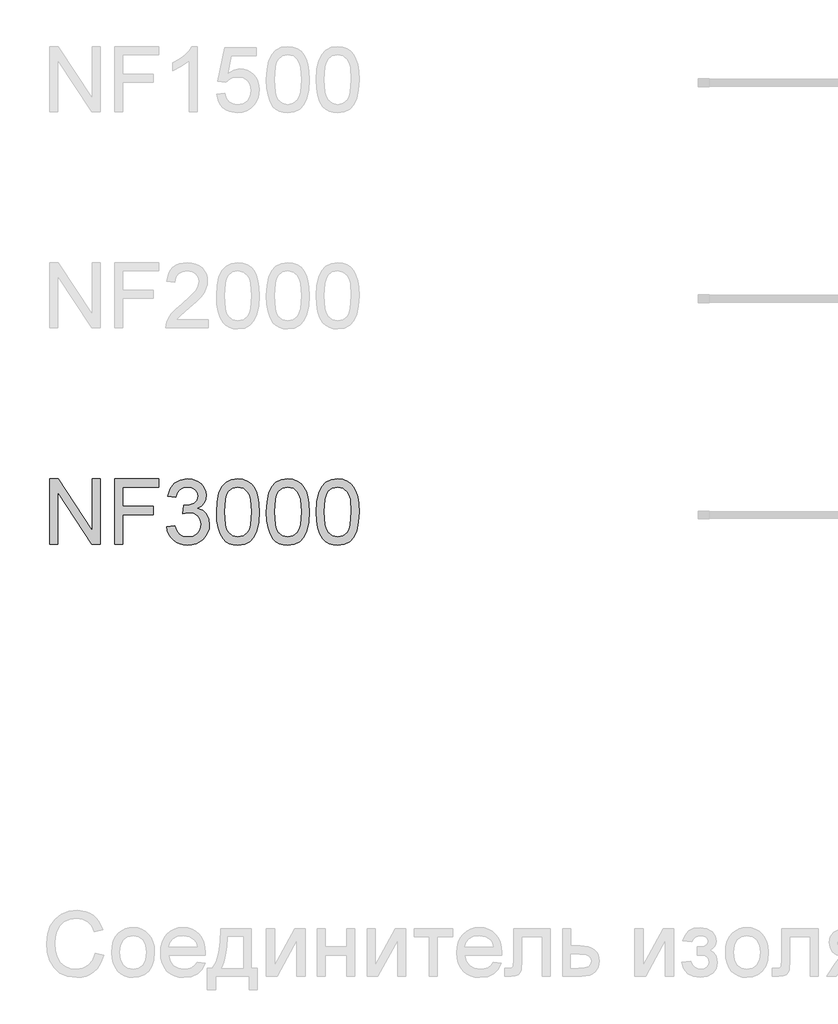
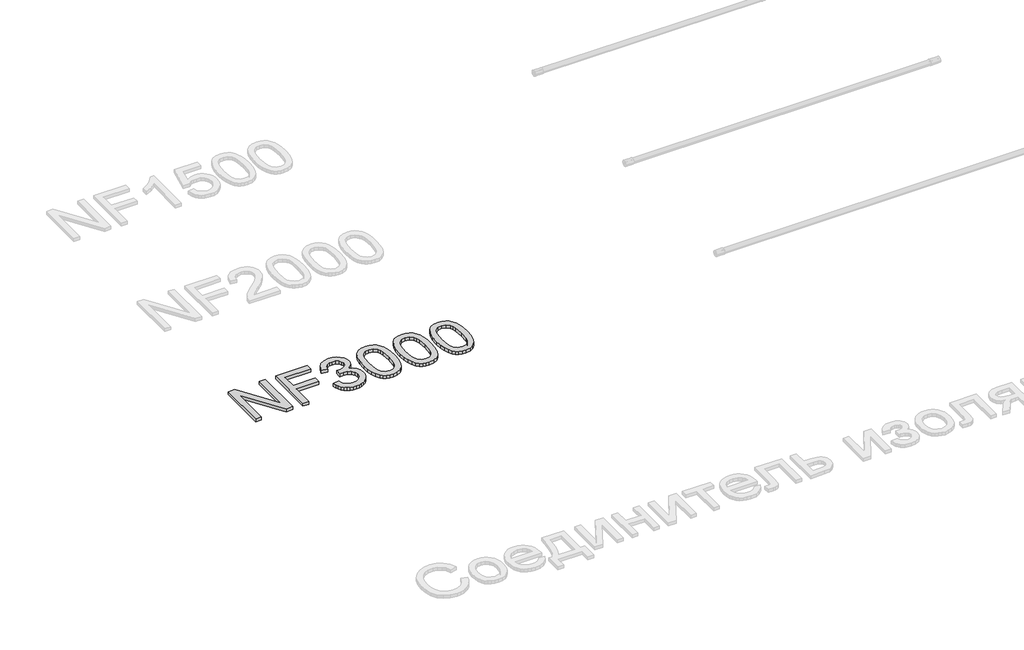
# One storey, part 21 of 124: 1 proxy.
"""IFC4 building model written with IfcOpenShell, lengths in millimetres."""

from ifc_helpers import new_model, si_unit, origin, origin_with_axes, place, context, project, spatial, polyline, outline, extrude, element, save

model = new_model("IFC4")

# Units and contexts
model_context = context("Model", 3, world=origin())
ifc_project = project(units=[si_unit("LENGTHUNIT", "METRE", prefix="MILLI")], contexts=[model_context])

# Site, building, storey
site = spatial("IfcSite", under=ifc_project)
building = spatial("IfcBuilding", under=site)
storey = spatial("IfcBuildingStorey", under=building, Name="Этаж 01", Elevation=0.0)

# Proxy
placement = place(None, origin())
element("IfcBuildingElementProxy", 1, Name="300", ObjectType="300", at=placement, inside=storey, context=model_context, shape_type="SweptSolid", body=[
    extrude(outline(polyline([(25399.8220677, -104548.8731539), (25399.8220677, -104247.5042234), (25440.1419344, -104247.5042234), (25597.5954283, -104486.2596383), (25597.5954283, -104247.5042234), (25635.2665446, -104247.5042234), (25635.2665446, -104548.8731539), (25594.9466779, -104548.8731539), (25437.493184, -104310.0441626), (25437.493184, -104548.8731539), (25399.8220677, -104548.8731539)])), origin_with_axes(), (0.0, 0.0, 1.0), 20.0),
    extrude(outline(polyline([(25701.1909981, -104548.8731539), (25701.1909981, -104247.5042234), (25903.6732483, -104247.5042234), (25903.6732483, -104285.1753397), (25738.8621144, -104285.1753397), (25738.8621144, -104374.644241), (25880.1288006, -104374.644241), (25880.1288006, -104412.3153573), (25738.8621144, -104412.3153573), (25738.8621144, -104548.8731539), (25701.1909981, -104548.8731539)])), origin_with_axes(), (0.0, 0.0, 1.0), 20.0),
    extrude(outline(polyline([(25941.3443646, -104468.8220317), (25979.0154809, -104464.1131422), (25987.4491756, -104487.7863486), (25999.8008136, -104503.7708213), (26016.6774002, -104512.8759007), (26038.6859405, -104515.9109271), (26064.5112566, -104511.7354665), (26084.4504607, -104499.2090845), (26097.1975719, -104480.5206792), (26101.4466089, -104457.8591483), (26097.2343601, -104436.3472486), (26084.5976135, -104418.900445), (26065.4677498, -104407.3397533), (26041.7761493, -104403.4861894), (26015.362222, -104407.6064677), (26019.5560768, -104369.9353514), (26025.5893415, -104370.3768098), (26048.1589019, -104367.6728772), (26068.3372293, -104359.5610792), (26082.5742625, -104345.8390807), (26087.3199403, -104326.3045468), (26083.8802436, -104310.0349656), (26073.5611537, -104296.837199), (26057.8158043, -104288.0908046), (26038.0973293, -104285.1753397), (26018.3420662, -104288.1183957), (26002.1920466, -104296.9475636), (25990.4014287, -104311.6628434), (25983.7243704, -104332.2642351), (25946.0532541, -104327.5553456), (25957.1448963, -104293.7285961), (25976.8817653, -104268.4734972), (26003.8843038, -104252.7465419), (26036.7729541, -104247.5042234), (26060.4553576, -104250.0885945), (26082.2063805, -104257.8417075), (26100.545298, -104270.0737838), (26113.9913849, -104286.0950447), (26122.2411387, -104304.5535238), (26124.9910566, -104324.0972548), (26122.3790944, -104342.3074136), (26114.5432079, -104358.8253152), (26101.5937617, -104372.8968015), (26083.6411203, -104383.7677145), (26107.2223562, -104393.2958581), (26124.696751, -104409.5194541), (26135.5124816, -104431.5555856), (26139.1177252, -104458.5213359), (26137.3151034, -104477.6328055), (26131.9072381, -104495.235959), (26122.8941292, -104511.3307963), (26110.2757768, -104525.9173174), (26094.9029079, -104538.020635), (26077.6262497, -104546.6658619), (26058.4458022, -104551.852998), (26037.3615653, -104553.5820434), (26018.305278, -104552.1059169), (26000.9412478, -104547.6775374), (25985.2694748, -104540.2969049), (25971.289959, -104529.9640193), (25959.5683189, -104517.2858861), (25950.6701732, -104502.8695104), (25944.5955217, -104486.7148923), (25941.3443646, -104468.8220317)])), origin_with_axes(), (0.0, 0.0, 1.0), 20.0),
    extrude(outline(polyline([(26172.079952, -104400.6167098), (26174.848264, -104352.3781832), (26183.1532, -104313.9069236), (26196.9119866, -104284.6143197), (26216.0418504, -104263.9117604), (26240.680747, -104251.6061077), (26270.9666323, -104247.5042234), (26294.1799862, -104249.9322446), (26314.9653189, -104257.2163081), (26332.3477432, -104269.0713054), (26345.3523717, -104285.2121279), (26355.174821, -104305.50082), (26363.0107075, -104329.7994258), (26368.1426613, -104360.6555281), (26369.8533126, -104400.6167098), (26367.1125917, -104448.579325), (26358.8904291, -104486.9586141), (26345.2144159, -104516.2788091), (26326.1121433, -104537.0641418), (26301.4180644, -104549.452568), (26270.9666323, -104553.5820434), (26250.2180877, -104551.7886187), (26231.823988, -104546.4083445), (26215.784333, -104537.4412209), (26202.0991228, -104524.8872478), (26188.9657355, -104502.1935272), (26179.5847447, -104473.9171974), (26173.9561501, -104440.0582582), (26172.079952, -104400.6167098)]), holes=[polyline([(26209.7510683, -104400.5431334), (26214.1656522, -104459.7997258), (26219.6838821, -104480.0677245), (26227.409404, -104494.0955248), (26247.127879, -104510.4570765), (26270.9666323, -104515.9109271), (26294.8053856, -104510.4386824), (26314.5238605, -104494.0219484), (26322.2493824, -104479.9711555), (26327.7676123, -104459.7077553), (26332.1821963, -104400.5431334), (26327.9147651, -104342.6201133), (26322.5804762, -104322.4187932), (26315.1124717, -104308.0575998), (26295.430785, -104290.8959048), (26270.5251739, -104285.1753397), (26246.943938, -104290.2153231), (26227.9980152, -104305.3352731), (26220.0149759, -104320.9702579), (26214.312805, -104342.0498962), (26209.7510683, -104400.5431334)])]), origin_with_axes(), (0.0, 0.0, 1.0), 20.0),
    extrude(outline(polyline([(26402.8155393, -104400.6167098), (26405.5838514, -104352.3781832), (26413.8887874, -104313.9069236), (26427.647574, -104284.6143197), (26446.7774378, -104263.9117604), (26471.4163344, -104251.6061077), (26501.7022196, -104247.5042234), (26524.9155735, -104249.9322446), (26545.7009063, -104257.2163081), (26563.0833305, -104269.0713054), (26576.0879591, -104285.2121279), (26585.9104083, -104305.50082), (26593.7462948, -104329.7994258), (26598.8782487, -104360.6555281), (26600.5889, -104400.6167098), (26597.8481791, -104448.579325), (26589.6260165, -104486.9586141), (26575.9500033, -104516.2788091), (26556.8477307, -104537.0641418), (26532.1536518, -104549.452568), (26501.7022196, -104553.5820434), (26480.9536751, -104551.7886187), (26462.5595754, -104546.4083445), (26446.5199204, -104537.4412209), (26432.8347102, -104524.8872478), (26419.7013229, -104502.1935272), (26410.320332, -104473.9171974), (26404.6917375, -104440.0582582), (26402.8155393, -104400.6167098)]), holes=[polyline([(26440.4866556, -104400.5431334), (26444.9012396, -104459.7997258), (26450.4194695, -104480.0677245), (26458.1449914, -104494.0955248), (26477.8634664, -104510.4570765), (26501.7022196, -104515.9109271), (26525.5409729, -104510.4386824), (26545.2594479, -104494.0219484), (26552.9849698, -104479.9711555), (26558.5031997, -104459.7077553), (26562.9177836, -104400.5431334), (26558.6503525, -104342.6201133), (26553.3160636, -104322.4187932), (26545.8480591, -104308.0575998), (26526.1663723, -104290.8959048), (26501.2607613, -104285.1753397), (26477.6795254, -104290.2153231), (26458.7336026, -104305.3352731), (26450.7505633, -104320.9702579), (26445.0483924, -104342.0498962), (26440.4866556, -104400.5431334)])]), origin_with_axes(), (0.0, 0.0, 1.0), 20.0),
    extrude(outline(polyline([(26633.5511267, -104400.6167098), (26636.3194387, -104352.3781832), (26644.6243748, -104313.9069236), (26658.3831614, -104284.6143197), (26677.5130251, -104263.9117604), (26702.1519218, -104251.6061077), (26732.437807, -104247.5042234), (26755.6511609, -104249.9322446), (26776.4364936, -104257.2163081), (26793.8189179, -104269.0713054), (26806.8235464, -104285.2121279), (26816.6459957, -104305.50082), (26824.4818822, -104329.7994258), (26829.613836, -104360.6555281), (26831.3244873, -104400.6167098), (26828.5837665, -104448.579325), (26820.3616039, -104486.9586141), (26806.6855907, -104516.2788091), (26787.5833181, -104537.0641418), (26762.8892392, -104549.452568), (26732.437807, -104553.5820434), (26711.6892625, -104551.7886187), (26693.2951627, -104546.4083445), (26677.2555077, -104537.4412209), (26663.5702975, -104524.8872478), (26650.4369103, -104502.1935272), (26641.0559194, -104473.9171974), (26635.4273249, -104440.0582582), (26633.5511267, -104400.6167098)]), holes=[polyline([(26671.222243, -104400.5431334), (26675.636827, -104459.7997258), (26681.1550569, -104480.0677245), (26688.8805788, -104494.0955248), (26708.5990537, -104510.4570765), (26732.437807, -104515.9109271), (26756.2765603, -104510.4386824), (26775.9950353, -104494.0219484), (26783.7205571, -104479.9711555), (26789.2387871, -104459.7077553), (26793.653371, -104400.5431334), (26789.3859399, -104342.6201133), (26784.0516509, -104322.4187932), (26776.5836464, -104308.0575998), (26756.9019597, -104290.8959048), (26731.9963486, -104285.1753397), (26708.4151127, -104290.2153231), (26689.46919, -104305.3352731), (26681.4861507, -104320.9702579), (26675.7839798, -104342.0498962), (26671.222243, -104400.5431334)])]), origin_with_axes(), (0.0, 0.0, 1.0), 20.0),
])

save(model, "model.ifc")
